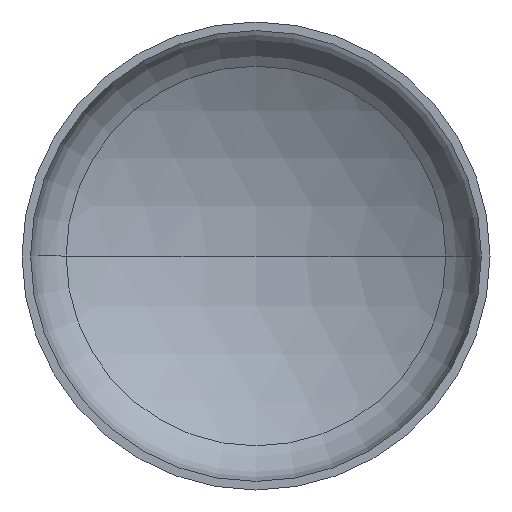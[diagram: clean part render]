
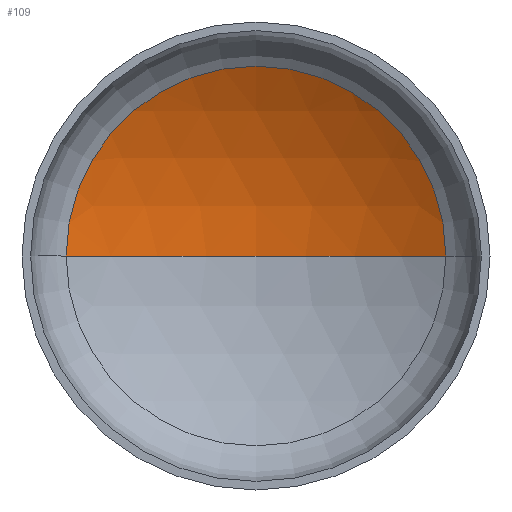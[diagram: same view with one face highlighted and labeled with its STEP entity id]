
A CAD part, front view. The second image highlights one B-rep face of the part: STEP entity #109.
In plain terms, the highlighted spherical face has radius 3040 mm.
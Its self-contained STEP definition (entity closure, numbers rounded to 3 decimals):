
#10 = DIRECTION ( 'NONE',  ( 0., 0., -1. ) ) ;
#21 = AXIS2_PLACEMENT_3D ( 'NONE', #82, #10, #94 ) ;
#28 = CARTESIAN_POINT ( 'NONE',  ( 1541.67, 624.194, 0. ) ) ;
#35 = AXIS2_PLACEMENT_3D ( 'NONE', #186, #378, #80 ) ;
#36 = AXIS2_PLACEMENT_3D ( 'NONE', #176, #177, #169 ) ;
#38 = AXIS2_PLACEMENT_3D ( 'NONE', #155, #270, #267 ) ;
#49 = CIRCLE ( 'NONE', #38, 1541.67 ) ;
#69 = EDGE_CURVE ( 'NONE', #274, #347, #49, .T. ) ;
#70 = EDGE_CURVE ( 'NONE', #138, #274, #364, .T. ) ;
#80 = DIRECTION ( 'NONE',  ( 1., 0., 0. ) ) ;
#81 = EDGE_CURVE ( 'NONE', #138, #347, #290, .T. ) ;
#82 = CARTESIAN_POINT ( 'NONE',  ( 0., -1995.892, 0. ) ) ;
#94 = DIRECTION ( 'NONE',  ( -1., 0., 0. ) ) ;
#106 = CARTESIAN_POINT ( 'NONE',  ( -1541.67, 624.194, 0. ) ) ;
#109 = ADVANCED_FACE ( 'NONE', ( #280 ), #210, .F. ) ;
#121 = ORIENTED_EDGE ( 'NONE', *, *, #69, .T. ) ;
#138 = VERTEX_POINT ( 'NONE', #152 ) ;
#152 = CARTESIAN_POINT ( 'NONE',  ( 0., 1044.108, 0. ) ) ;
#155 = CARTESIAN_POINT ( 'NONE',  ( 0., 624.194, 0. ) ) ;
#169 = DIRECTION ( 'NONE',  ( -1., 0., 0. ) ) ;
#176 = CARTESIAN_POINT ( 'NONE',  ( 0., -1995.892, 0. ) ) ;
#177 = DIRECTION ( 'NONE',  ( 0., 0., -1. ) ) ;
#186 = CARTESIAN_POINT ( 'NONE',  ( 0., -1995.892, 0. ) ) ;
#198 = EDGE_LOOP ( 'NONE', ( #367, #260, #121 ) ) ;
#210 = SPHERICAL_SURFACE ( 'NONE', #21, 3040. ) ;
#260 = ORIENTED_EDGE ( 'NONE', *, *, #70, .T. ) ;
#267 = DIRECTION ( 'NONE',  ( 1., 0., 0. ) ) ;
#270 = DIRECTION ( 'NONE',  ( 0., -1., 0. ) ) ;
#274 = VERTEX_POINT ( 'NONE', #28 ) ;
#280 = FACE_OUTER_BOUND ( 'NONE', #198, .T. ) ;
#290 = CIRCLE ( 'NONE', #35, 3040. ) ;
#347 = VERTEX_POINT ( 'NONE', #106 ) ;
#364 = CIRCLE ( 'NONE', #36, 3040. ) ;
#367 = ORIENTED_EDGE ( 'NONE', *, *, #81, .F. ) ;
#378 = DIRECTION ( 'NONE',  ( 0., 0., 1. ) ) ;
